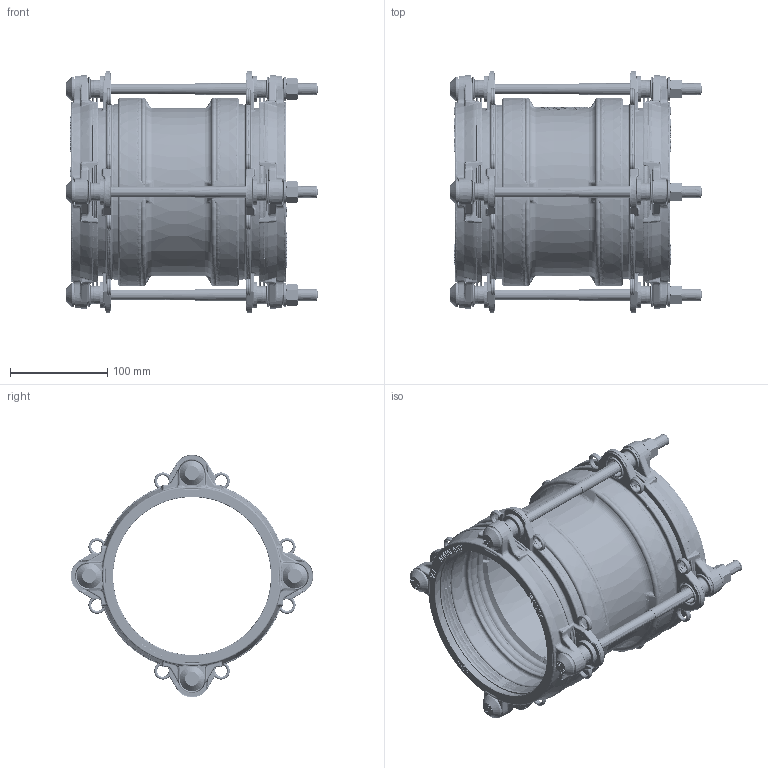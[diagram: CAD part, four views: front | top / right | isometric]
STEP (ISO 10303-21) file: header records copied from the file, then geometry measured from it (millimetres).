
FILE_DESCRIPTION((''),'2;1');
FILE_NAME('PRT0003','2014-12-10T',('rburgess'),('Viking Johnson'),'PRO/ENGINEER BY PARAMETRIC TECHNOLOGY CORPORATION, 2006020','PRO/ENGINEER BY PARAMETRIC TECHNOLOGY CORPORATION, 2006020','');
FILE_SCHEMA(('CONFIG_CONTROL_DESIGN'));
Products named in the file (1): PRT0003
Bounding box: 259.9 x 250 x 250 mm (x, y, z)
Surface area: 1456196.7 mm2 (no closed solid volume)
Topology: 0 solids, 0 shells, 6699 faces, 35146 edges, 34550 vertices
Faces by surface type: bspline 5845, torus 742, sphere 112
Entity records: 502920 total; most frequent: CARTESIAN_POINT 201294, DIRECTION 46567, TRIMMED_CURVE 41052, VECTOR 37245, LINE 37245, DEFINITIONAL_REPRESENTATION 33874, PCURVE 33874, COMPOSITE_CURVE_SEGMENT 33874
